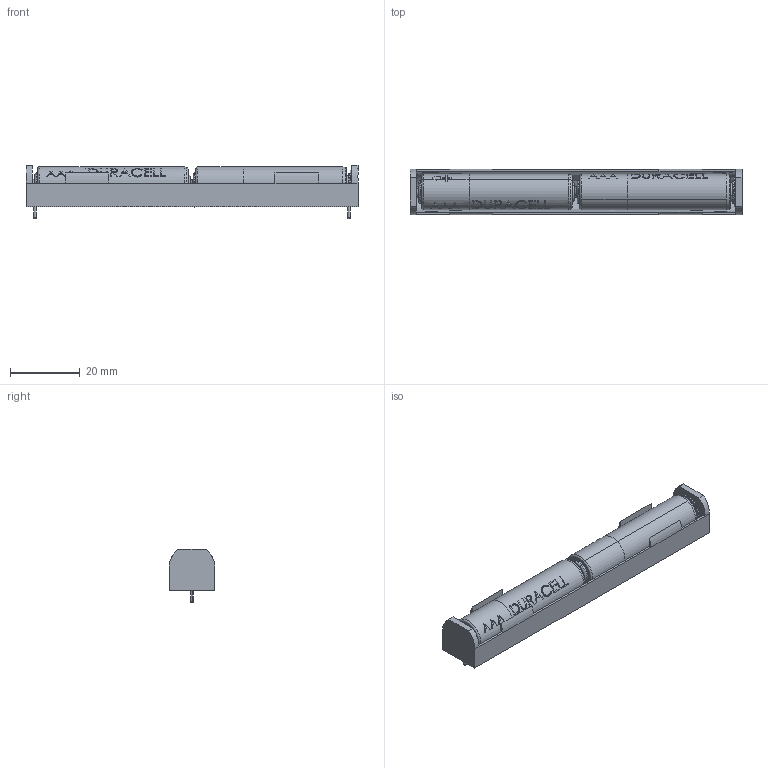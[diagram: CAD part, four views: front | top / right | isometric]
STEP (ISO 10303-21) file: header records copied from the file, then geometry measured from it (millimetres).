
FILE_DESCRIPTION(/* description */ (''),/* implementation_level */ '2;1');
FILE_NAME(/* name */ 'Battery Holder',/* time_stamp */ '2024-04-09T13:37:35+02:00',/* author */ (''),/* organization */ (''),/* preprocessor_version */ 'ST-DEVELOPER v19.2',/* originating_system */ 'Rhino 8.3',/* authorisation */ '');
FILE_SCHEMA (('TECHNICAL_DATA_PACKAGING'));
Length unit declared in the file: millimetre
Products named in the file (1): Document
Bounding box: 95.14 x 13.06 x 15.28 mm (x, y, z)
Volume: 10219.9 mm3; surface area: 8664.9 mm2
Topology: 8 solids, 8 shells, 481 faces, 1208 edges, 792 vertices
Faces by surface type: plane 218, bspline 175, cylinder 88
Entity records: 28326 total; most frequent: CARTESIAN_POINT 16973, ORIENTED_EDGE 2416, EDGE_CURVE 1208, B_SPLINE_CURVE_WITH_KNOTS 861, DIRECTION 814, VERTEX_POINT 792, AXIS2_PLACEMENT_3D 560, EDGE_LOOP 546
